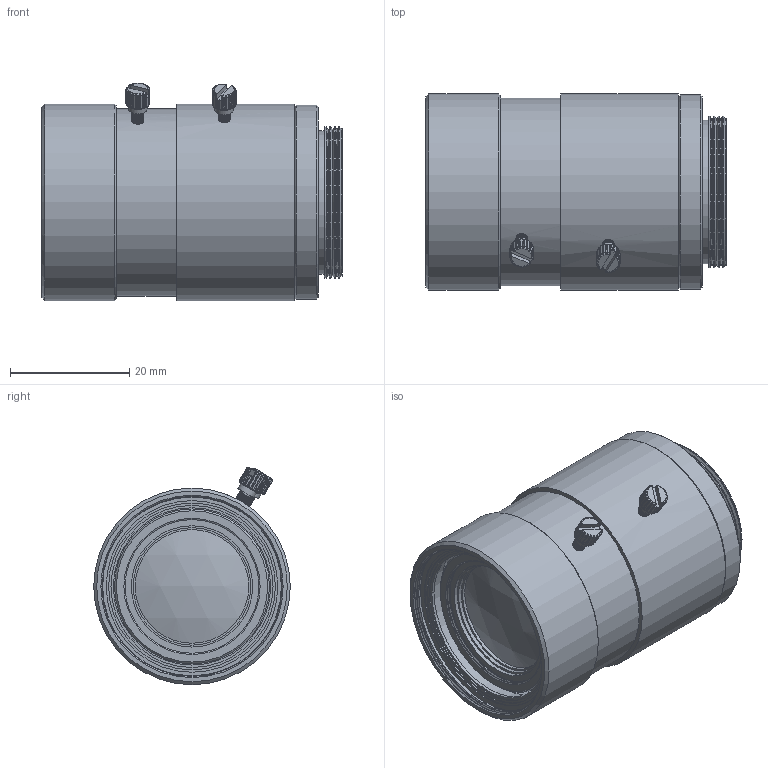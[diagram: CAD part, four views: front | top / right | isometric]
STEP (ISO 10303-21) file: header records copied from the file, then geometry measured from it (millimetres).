
FILE_DESCRIPTION(/* description */ ('TCL 5026 5MP'),/* implementation_level */ '2;1');
FILE_NAME(/* name */ 'D:\1_Konstruktion\1_KUNDEN\TIS\199-15_Objektive_Step-Dateien für Endkundem\C-Objektive (8x)\Lens_TCL 5026 5MP.stp',/* time_stamp */ '2016-01-28T20:00:18+01:00',/* author */ ('khw'),/* organization */ (''),/* preprocessor_version */ 'ST-DEVELOPER v15.2',/* originating_system */ 'Autodesk Inventor 2014',/* authorisation */ '6767,5 mm^3');
FILE_SCHEMA (('AUTOMOTIVE_DESIGN { 1 0 10303 214 3 1 1 }'));
Length unit declared in the file: millimetre
Products named in the file (1): Lens_TCL 5026 5MP
Bounding box: 50.41 x 33 x 36.5 mm (x, y, z)
Volume: 1678.7 mm3; surface area: 16661.1 mm2
Topology: 1 solids, 2 shells, 727 faces, 2323 edges, 1274 vertices
Faces by surface type: bspline 299, cylinder 224, plane 139, cone 60, torus 4, sphere 1
Full cylindrical faces by diameter (mm): 2 x38, 3.1 x2, 10.928 x1, 15.5 x1, 16.6 x1, 17 x1, 19.076 x1, 19.72 x1, 20.36 x1, 21 x1, 22.44 x2, 23 x2, 23.066 x1, 23.56 x1, 24 x1, 24.066 x1, 25 x1, 25.466 x4, 26 x17, 26.4 x2, 27.2 x1, 28 x1, 28.4 x2, 28.8 x1, 29 x1, 29.5 x2, 30 x2, 30.6 x1, 31 x1, 31.12 x1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
Entity records: 64286 total; most frequent: CARTESIAN_POINT 47242, ORIENTED_EDGE 3960, DIRECTION 2838, EDGE_CURVE 1980, AXIS2_PLACEMENT_3D 1251, VERTEX_POINT 1210, CIRCLE 852, EDGE_LOOP 822
